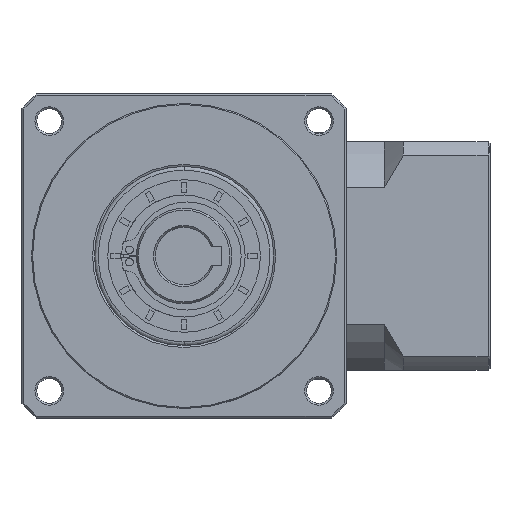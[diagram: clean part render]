
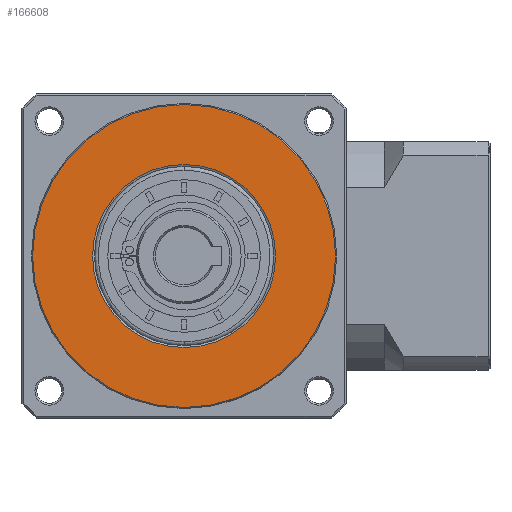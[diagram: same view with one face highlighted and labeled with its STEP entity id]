
A CAD part, left-side view. The second image highlights one B-rep face of the part: STEP entity #166608.
In plain terms, the highlighted planar face has unit normal (-1, 0, 0).
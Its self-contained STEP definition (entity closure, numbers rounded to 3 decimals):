
#6026 = FACE_BOUND ( 'NONE', #97476, .T. ) ;
#15017 = ORIENTED_EDGE ( 'NONE', *, *, #150116, .T. ) ;
#16988 = AXIS2_PLACEMENT_3D ( 'NONE', #135817, #57450, #148990 ) ;
#25071 = CARTESIAN_POINT ( 'NONE',  ( -174.343, 153.179, 43.294 ) ) ;
#25522 = EDGE_CURVE ( 'NONE', #82043, #134210, #46764, .T. ) ;
#31268 = DIRECTION ( 'NONE',  ( 1., 0., 0. ) ) ;
#36674 = ORIENTED_EDGE ( 'NONE', *, *, #127297, .T. ) ;
#37462 = VERTEX_POINT ( 'NONE', #135206 ) ;
#38240 = DIRECTION ( 'NONE',  ( 0., 0., -1. ) ) ;
#38981 = CIRCLE ( 'NONE', #66264, 24. ) ;
#46764 = CIRCLE ( 'NONE', #86807, 39.711 ) ;
#47738 = DIRECTION ( 'NONE',  ( 1., 0., 0. ) ) ;
#50840 = PLANE ( 'NONE',  #74008 ) ;
#57450 = DIRECTION ( 'NONE',  ( 1., 0., 0. ) ) ;
#62449 = ORIENTED_EDGE ( 'NONE', *, *, #136649, .F. ) ;
#66264 = AXIS2_PLACEMENT_3D ( 'NONE', #109659, #31268, #122809 ) ;
#70445 = VERTEX_POINT ( 'NONE', #155137 ) ;
#73018 = CARTESIAN_POINT ( 'NONE',  ( -174.343, 153.179, 43.294 ) ) ;
#74008 = AXIS2_PLACEMENT_3D ( 'NONE', #25071, #116588, #38240 ) ;
#79101 = CARTESIAN_POINT ( 'NONE',  ( -174.343, 192.89, 43.294 ) ) ;
#82043 = VERTEX_POINT ( 'NONE', #79101 ) ;
#86100 = DIRECTION ( 'NONE',  ( 0., 1., 0. ) ) ;
#86807 = AXIS2_PLACEMENT_3D ( 'NONE', #126118, #47738, #139281 ) ;
#97476 = EDGE_LOOP ( 'NONE', ( #15017, #36674 ) ) ;
#103094 = CIRCLE ( 'NONE', #141484, 39.711 ) ;
#109659 = CARTESIAN_POINT ( 'NONE',  ( -174.343, 153.179, 43.294 ) ) ;
#115670 = EDGE_LOOP ( 'NONE', ( #142439, #62449 ) ) ;
#116588 = DIRECTION ( 'NONE',  ( -1., 0., 0. ) ) ;
#122809 = DIRECTION ( 'NONE',  ( 0., 0., -1. ) ) ;
#123507 = CIRCLE ( 'NONE', #16988, 24. ) ;
#126118 = CARTESIAN_POINT ( 'NONE',  ( -174.343, 153.179, 43.294 ) ) ;
#127297 = EDGE_CURVE ( 'NONE', #37462, #70445, #38981, .T. ) ;
#134210 = VERTEX_POINT ( 'NONE', #139645 ) ;
#135206 = CARTESIAN_POINT ( 'NONE',  ( -174.343, 153.179, 67.294 ) ) ;
#135817 = CARTESIAN_POINT ( 'NONE',  ( -174.343, 153.179, 43.294 ) ) ;
#136649 = EDGE_CURVE ( 'NONE', #134210, #82043, #103094, .T. ) ;
#139281 = DIRECTION ( 'NONE',  ( 0., 1., 0. ) ) ;
#139645 = CARTESIAN_POINT ( 'NONE',  ( -174.343, 113.467, 43.294 ) ) ;
#141192 = FACE_OUTER_BOUND ( 'NONE', #115670, .T. ) ;
#141484 = AXIS2_PLACEMENT_3D ( 'NONE', #73018, #164546, #86100 ) ;
#142439 = ORIENTED_EDGE ( 'NONE', *, *, #25522, .F. ) ;
#148990 = DIRECTION ( 'NONE',  ( 0., 0., -1. ) ) ;
#150116 = EDGE_CURVE ( 'NONE', #70445, #37462, #123507, .T. ) ;
#155137 = CARTESIAN_POINT ( 'NONE',  ( -174.343, 153.179, 19.294 ) ) ;
#164546 = DIRECTION ( 'NONE',  ( 1., 0., 0. ) ) ;
#166608 = ADVANCED_FACE ( 'NONE', ( #141192, #6026 ), #50840, .T. ) ;
